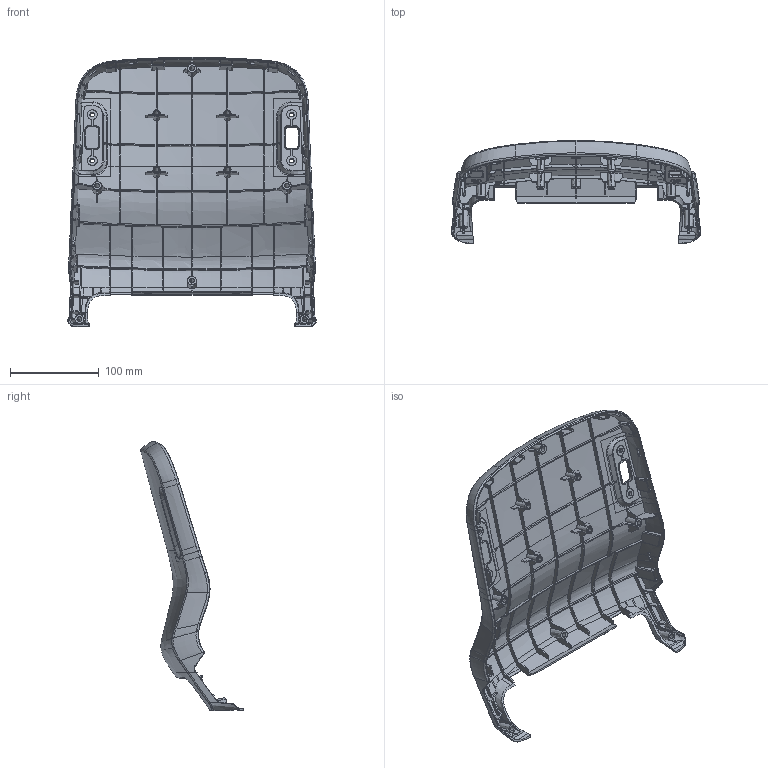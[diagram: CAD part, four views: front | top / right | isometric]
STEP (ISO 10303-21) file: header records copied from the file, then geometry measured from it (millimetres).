
FILE_DESCRIPTION (( 'STEP AP203' ), '1' );
FILE_NAME ('Backrest-support-3D.STEP', '2026-04-09T08:46:16', ( '' ), ( '' ), 'SwSTEP 2.0', 'SolidWorks 2023', '' );
FILE_SCHEMA (( 'CONFIG_CONTROL_DESIGN' ));
Products named in the file (1): Backrest-support-3D
Bounding box: 281.36 x 115.98 x 303.82 mm (x, y, z)
Volume: 259101.6 mm3; surface area: 232760.5 mm2
Topology: 1 solids, 1 shells, 1594 faces, 4487 edges, 2916 vertices
Faces by surface type: bspline 1594
Entity records: 272636 total; most frequent: CARTESIAN_POINT 245912, ORIENTED_EDGE 8970, EDGE_CURVE 4485, B_SPLINE_CURVE_WITH_KNOTS 4203, VERTEX_POINT 2916, EDGE_LOOP 1627, ADVANCED_FACE 1594, FACE_OUTER_BOUND 1594
